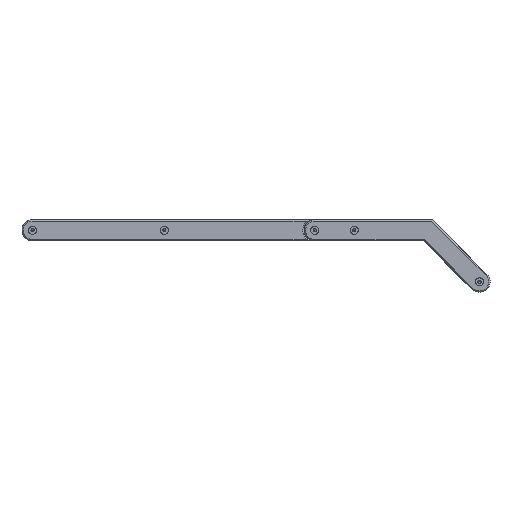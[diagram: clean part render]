
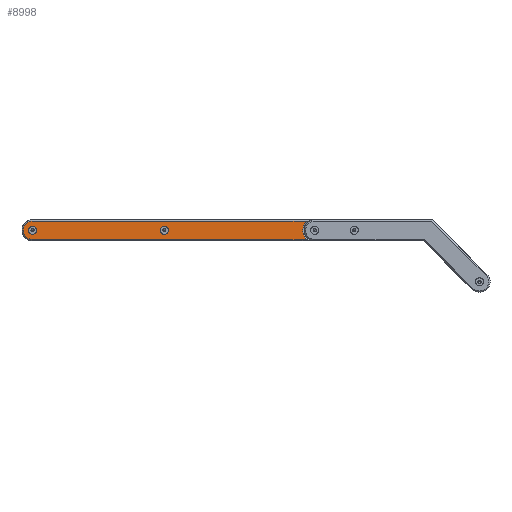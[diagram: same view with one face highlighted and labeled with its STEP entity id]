
A CAD part, front view. The second image highlights one B-rep face of the part: STEP entity #8998.
In plain terms, the highlighted planar face has unit normal (0, -1, 0).
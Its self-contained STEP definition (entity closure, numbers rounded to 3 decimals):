
#8998 = ADVANCED_FACE('',(#8999,#9122,#9152),#9013,.T.);
#8999 = FACE_BOUND('',#9000,.T.);
#9000 = EDGE_LOOP('',(#9001,#9036,#9068,#9096));
#9001 = ORIENTED_EDGE('',*,*,#9002,.F.);
#9002 = EDGE_CURVE('',#9003,#9005,#9007,.T.);
#9003 = VERTEX_POINT('',#9004);
#9004 = CARTESIAN_POINT('',(-107.,-14.,115.));
#9005 = VERTEX_POINT('',#9006);
#9006 = CARTESIAN_POINT('',(101.185,-14.,115.));
#9007 = SURFACE_CURVE('',#9008,(#9012,#9024),.PCURVE_S1.);
#9008 = LINE('',#9009,#9010);
#9009 = CARTESIAN_POINT('',(-107.,-14.,115.));
#9010 = VECTOR('',#9011,1.);
#9011 = DIRECTION('',(1.,0.,0.));
#9012 = PCURVE('',#9013,#9018);
#9013 = PLANE('',#9014);
#9014 = AXIS2_PLACEMENT_3D('',#9015,#9016,#9017);
#9015 = CARTESIAN_POINT('',(0.,-14.,108.));
#9016 = DIRECTION('',(0.,-1.,0.));
#9017 = DIRECTION('',(0.,0.,-1.));
#9018 = DEFINITIONAL_REPRESENTATION('',(#9019),#9023);
#9019 = LINE('',#9020,#9021);
#9020 = CARTESIAN_POINT('',(-7.,-107.));
#9021 = VECTOR('',#9022,1.);
#9022 = DIRECTION('',(0.,1.));
#9023 = ( GEOMETRIC_REPRESENTATION_CONTEXT(2) 
PARAMETRIC_REPRESENTATION_CONTEXT() REPRESENTATION_CONTEXT('2D SPACE',''
  ) );
#9024 = PCURVE('',#9025,#9030);
#9025 = PLANE('',#9026);
#9026 = AXIS2_PLACEMENT_3D('',#9027,#9028,#9029);
#9027 = CARTESIAN_POINT('',(-107.,-13.5,115.5));
#9028 = DIRECTION('',(0.,-0.707,0.707));
#9029 = DIRECTION('',(1.,0.,0.));
#9030 = DEFINITIONAL_REPRESENTATION('',(#9031),#9035);
#9031 = LINE('',#9032,#9033);
#9032 = CARTESIAN_POINT('',(0.,-0.707));
#9033 = VECTOR('',#9034,1.);
#9034 = DIRECTION('',(1.,0.));
#9035 = ( GEOMETRIC_REPRESENTATION_CONTEXT(2) 
PARAMETRIC_REPRESENTATION_CONTEXT() REPRESENTATION_CONTEXT('2D SPACE',''
  ) );
#9036 = ORIENTED_EDGE('',*,*,#9037,.F.);
#9037 = EDGE_CURVE('',#9038,#9003,#9040,.T.);
#9038 = VERTEX_POINT('',#9039);
#9039 = CARTESIAN_POINT('',(-107.,-14.,101.));
#9040 = SURFACE_CURVE('',#9041,(#9046,#9057),.PCURVE_S1.);
#9041 = CIRCLE('',#9042,7.);
#9042 = AXIS2_PLACEMENT_3D('',#9043,#9044,#9045);
#9043 = CARTESIAN_POINT('',(-107.,-14.,108.));
#9044 = DIRECTION('',(0.,1.,0.));
#9045 = DIRECTION('',(0.,0.,-1.));
#9046 = PCURVE('',#9013,#9047);
#9047 = DEFINITIONAL_REPRESENTATION('',(#9048),#9056);
#9048 = ( BOUNDED_CURVE() B_SPLINE_CURVE(2,(#9049,#9050,#9051,#9052,
#9053,#9054,#9055),.UNSPECIFIED.,.T.,.F.) B_SPLINE_CURVE_WITH_KNOTS((1,2
    ,2,2,2,1),(-2.094,0.,2.094,4.189,
6.283,8.378),.UNSPECIFIED.) CURVE() 
GEOMETRIC_REPRESENTATION_ITEM() RATIONAL_B_SPLINE_CURVE((1.,0.5,1.,0.5,
1.,0.5,1.)) REPRESENTATION_ITEM('') );
#9049 = CARTESIAN_POINT('',(7.,-107.));
#9050 = CARTESIAN_POINT('',(7.,-119.124));
#9051 = CARTESIAN_POINT('',(-3.5,-113.062));
#9052 = CARTESIAN_POINT('',(-14.,-107.));
#9053 = CARTESIAN_POINT('',(-3.5,-100.938));
#9054 = CARTESIAN_POINT('',(7.,-94.876));
#9055 = CARTESIAN_POINT('',(7.,-107.));
#9056 = ( GEOMETRIC_REPRESENTATION_CONTEXT(2) 
PARAMETRIC_REPRESENTATION_CONTEXT() REPRESENTATION_CONTEXT('2D SPACE',''
  ) );
#9057 = PCURVE('',#9058,#9063);
#9058 = CONICAL_SURFACE('',#9059,8.,0.785);
#9059 = AXIS2_PLACEMENT_3D('',#9060,#9061,#9062);
#9060 = CARTESIAN_POINT('',(-107.,-13.,108.));
#9061 = DIRECTION('',(0.,1.,0.));
#9062 = DIRECTION('',(0.,0.,-1.));
#9063 = DEFINITIONAL_REPRESENTATION('',(#9064),#9067);
#9064 = B_SPLINE_CURVE_WITH_KNOTS('',1,(#9065,#9066),.UNSPECIFIED.,.F.,
  .F.,(2,2),(0.,3.142),.PIECEWISE_BEZIER_KNOTS.);
#9065 = CARTESIAN_POINT('',(0.,-1.));
#9066 = CARTESIAN_POINT('',(3.142,-1.));
#9067 = ( GEOMETRIC_REPRESENTATION_CONTEXT(2) 
PARAMETRIC_REPRESENTATION_CONTEXT() REPRESENTATION_CONTEXT('2D SPACE',''
  ) );
#9068 = ORIENTED_EDGE('',*,*,#9069,.F.);
#9069 = EDGE_CURVE('',#9070,#9038,#9072,.T.);
#9070 = VERTEX_POINT('',#9071);
#9071 = CARTESIAN_POINT('',(101.185,-14.,101.));
#9072 = SURFACE_CURVE('',#9073,(#9077,#9084),.PCURVE_S1.);
#9073 = LINE('',#9074,#9075);
#9074 = CARTESIAN_POINT('',(105.731,-14.,101.));
#9075 = VECTOR('',#9076,1.);
#9076 = DIRECTION('',(-1.,0.,0.));
#9077 = PCURVE('',#9013,#9078);
#9078 = DEFINITIONAL_REPRESENTATION('',(#9079),#9083);
#9079 = LINE('',#9080,#9081);
#9080 = CARTESIAN_POINT('',(7.,105.731));
#9081 = VECTOR('',#9082,1.);
#9082 = DIRECTION('',(0.,-1.));
#9083 = ( GEOMETRIC_REPRESENTATION_CONTEXT(2) 
PARAMETRIC_REPRESENTATION_CONTEXT() REPRESENTATION_CONTEXT('2D SPACE',''
  ) );
#9084 = PCURVE('',#9085,#9090);
#9085 = PLANE('',#9086);
#9086 = AXIS2_PLACEMENT_3D('',#9087,#9088,#9089);
#9087 = CARTESIAN_POINT('',(105.731,-13.5,100.5));
#9088 = DIRECTION('',(0.,0.707,0.707));
#9089 = DIRECTION('',(1.,0.,0.));
#9090 = DEFINITIONAL_REPRESENTATION('',(#9091),#9095);
#9091 = LINE('',#9092,#9093);
#9092 = CARTESIAN_POINT('',(0.,-0.707));
#9093 = VECTOR('',#9094,1.);
#9094 = DIRECTION('',(-1.,0.));
#9095 = ( GEOMETRIC_REPRESENTATION_CONTEXT(2) 
PARAMETRIC_REPRESENTATION_CONTEXT() REPRESENTATION_CONTEXT('2D SPACE',''
  ) );
#9096 = ORIENTED_EDGE('',*,*,#9097,.F.);
#9097 = EDGE_CURVE('',#9005,#9070,#9098,.T.);
#9098 = SURFACE_CURVE('',#9099,(#9104,#9111),.PCURVE_S1.);
#9099 = CIRCLE('',#9100,9.1);
#9100 = AXIS2_PLACEMENT_3D('',#9101,#9102,#9103);
#9101 = CARTESIAN_POINT('',(107.,-14.,108.));
#9102 = DIRECTION('',(0.,-1.,0.));
#9103 = DIRECTION('',(-0.503,0.,0.864)
  );
#9104 = PCURVE('',#9013,#9105);
#9105 = DEFINITIONAL_REPRESENTATION('',(#9106),#9110);
#9106 = CIRCLE('',#9107,9.1);
#9107 = AXIS2_PLACEMENT_2D('',#9108,#9109);
#9108 = CARTESIAN_POINT('',(0.,107.));
#9109 = DIRECTION('',(-0.864,-0.503));
#9110 = ( GEOMETRIC_REPRESENTATION_CONTEXT(2) 
PARAMETRIC_REPRESENTATION_CONTEXT() REPRESENTATION_CONTEXT('2D SPACE',''
  ) );
#9111 = PCURVE('',#9112,#9117);
#9112 = CONICAL_SURFACE('',#9113,8.1,0.785);
#9113 = AXIS2_PLACEMENT_3D('',#9114,#9115,#9116);
#9114 = CARTESIAN_POINT('',(107.,-13.,108.));
#9115 = DIRECTION('',(0.,-1.,0.));
#9116 = DIRECTION('',(-0.503,0.,0.864)
  );
#9117 = DEFINITIONAL_REPRESENTATION('',(#9118),#9121);
#9118 = B_SPLINE_CURVE_WITH_KNOTS('',1,(#9119,#9120),.UNSPECIFIED.,.F.,
  .F.,(2,2),(0.166,1.921),.PIECEWISE_BEZIER_KNOTS.);
#9119 = CARTESIAN_POINT('',(0.166,1.));
#9120 = CARTESIAN_POINT('',(1.921,1.));
#9121 = ( GEOMETRIC_REPRESENTATION_CONTEXT(2) 
PARAMETRIC_REPRESENTATION_CONTEXT() REPRESENTATION_CONTEXT('2D SPACE',''
  ) );
#9122 = FACE_BOUND('',#9123,.T.);
#9123 = EDGE_LOOP('',(#9124));
#9124 = ORIENTED_EDGE('',*,*,#9125,.F.);
#9125 = EDGE_CURVE('',#9126,#9126,#9128,.T.);
#9126 = VERTEX_POINT('',#9127);
#9127 = CARTESIAN_POINT('',(-103.85,-14.,108.));
#9128 = SURFACE_CURVE('',#9129,(#9134,#9141),.PCURVE_S1.);
#9129 = CIRCLE('',#9130,3.15);
#9130 = AXIS2_PLACEMENT_3D('',#9131,#9132,#9133);
#9131 = CARTESIAN_POINT('',(-107.,-14.,108.));
#9132 = DIRECTION('',(0.,-1.,0.));
#9133 = DIRECTION('',(1.,0.,0.));
#9134 = PCURVE('',#9013,#9135);
#9135 = DEFINITIONAL_REPRESENTATION('',(#9136),#9140);
#9136 = CIRCLE('',#9137,3.15);
#9137 = AXIS2_PLACEMENT_2D('',#9138,#9139);
#9138 = CARTESIAN_POINT('',(0.,-107.));
#9139 = DIRECTION('',(0.,1.));
#9140 = ( GEOMETRIC_REPRESENTATION_CONTEXT(2) 
PARAMETRIC_REPRESENTATION_CONTEXT() REPRESENTATION_CONTEXT('2D SPACE',''
  ) );
#9141 = PCURVE('',#9142,#9147);
#9142 = CONICAL_SURFACE('',#9143,1.65,0.785);
#9143 = AXIS2_PLACEMENT_3D('',#9144,#9145,#9146);
#9144 = CARTESIAN_POINT('',(-107.,-12.5,108.));
#9145 = DIRECTION('',(0.,-1.,0.));
#9146 = DIRECTION('',(1.,0.,0.));
#9147 = DEFINITIONAL_REPRESENTATION('',(#9148),#9151);
#9148 = B_SPLINE_CURVE_WITH_KNOTS('',1,(#9149,#9150),.UNSPECIFIED.,.F.,
  .F.,(2,2),(0.,6.283),.PIECEWISE_BEZIER_KNOTS.);
#9149 = CARTESIAN_POINT('',(0.,1.5));
#9150 = CARTESIAN_POINT('',(6.283,1.5));
#9151 = ( GEOMETRIC_REPRESENTATION_CONTEXT(2) 
PARAMETRIC_REPRESENTATION_CONTEXT() REPRESENTATION_CONTEXT('2D SPACE',''
  ) );
#9152 = FACE_BOUND('',#9153,.T.);
#9153 = EDGE_LOOP('',(#9154));
#9154 = ORIENTED_EDGE('',*,*,#9155,.F.);
#9155 = EDGE_CURVE('',#9156,#9156,#9158,.T.);
#9156 = VERTEX_POINT('',#9157);
#9157 = CARTESIAN_POINT('',(-3.85,-14.,108.));
#9158 = SURFACE_CURVE('',#9159,(#9164,#9171),.PCURVE_S1.);
#9159 = CIRCLE('',#9160,3.15);
#9160 = AXIS2_PLACEMENT_3D('',#9161,#9162,#9163);
#9161 = CARTESIAN_POINT('',(-7.,-14.,108.));
#9162 = DIRECTION('',(0.,-1.,0.));
#9163 = DIRECTION('',(1.,0.,0.));
#9164 = PCURVE('',#9013,#9165);
#9165 = DEFINITIONAL_REPRESENTATION('',(#9166),#9170);
#9166 = CIRCLE('',#9167,3.15);
#9167 = AXIS2_PLACEMENT_2D('',#9168,#9169);
#9168 = CARTESIAN_POINT('',(0.,-7.));
#9169 = DIRECTION('',(0.,1.));
#9170 = ( GEOMETRIC_REPRESENTATION_CONTEXT(2) 
PARAMETRIC_REPRESENTATION_CONTEXT() REPRESENTATION_CONTEXT('2D SPACE',''
  ) );
#9171 = PCURVE('',#9172,#9177);
#9172 = CONICAL_SURFACE('',#9173,1.65,0.785);
#9173 = AXIS2_PLACEMENT_3D('',#9174,#9175,#9176);
#9174 = CARTESIAN_POINT('',(-7.,-12.5,108.));
#9175 = DIRECTION('',(0.,-1.,0.));
#9176 = DIRECTION('',(1.,0.,0.));
#9177 = DEFINITIONAL_REPRESENTATION('',(#9178),#9181);
#9178 = B_SPLINE_CURVE_WITH_KNOTS('',1,(#9179,#9180),.UNSPECIFIED.,.F.,
  .F.,(2,2),(0.,6.283),.PIECEWISE_BEZIER_KNOTS.);
#9179 = CARTESIAN_POINT('',(0.,1.5));
#9180 = CARTESIAN_POINT('',(6.283,1.5));
#9181 = ( GEOMETRIC_REPRESENTATION_CONTEXT(2) 
PARAMETRIC_REPRESENTATION_CONTEXT() REPRESENTATION_CONTEXT('2D SPACE',''
  ) );
